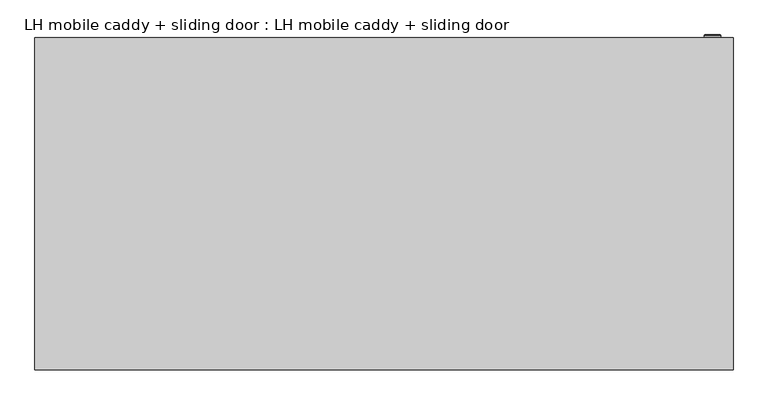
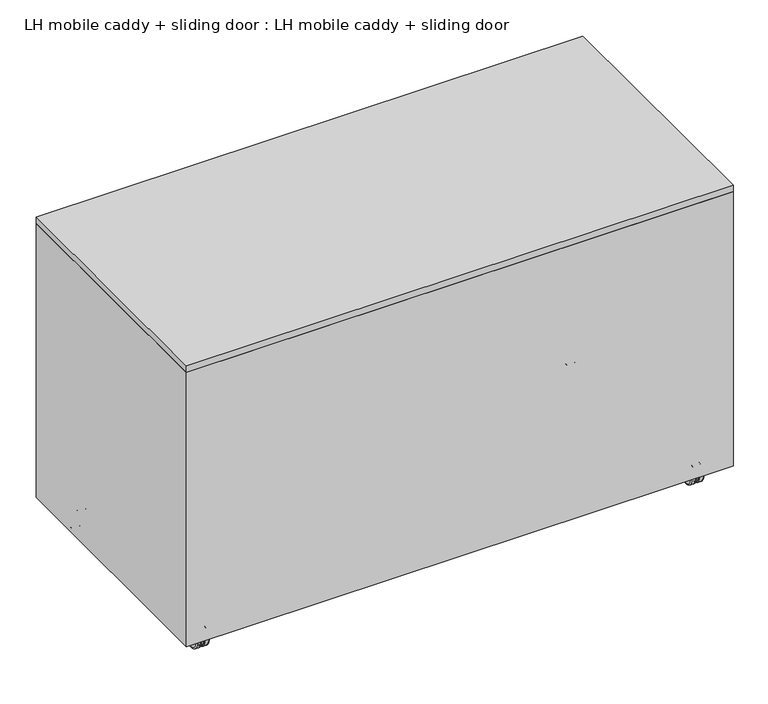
"""IFC4 building model written with IfcOpenShell, lengths in millimetres: furniture geometry, LH mobile caddy + sliding door : LH mobile caddy + sliding door."""

from ifc_helpers import new_model, si_unit, point, frame, frame_2d, origin, place, context, project, spatial, polyline, circle_curve, ellipse_curve, trimmed, segment, composite_curve, outline, extrude, faceted_brep, source, transform, mapped, element, save
from ifc_brep_helpers import plane_surface, cylinder_surface, revolved_surface, advanced_brep


def lh_mobile_caddy_sliding_door_lh_mobile_caddy_sliding_door_7feb8386(model_context):
    return source(origin(), model_context, "Body", "SolidModel", [
        advanced_brep(
        [(482.4473365, 254.0, 479.5526635), (505.5526635, 254.0, 479.5526635), (495.0273848, 254.0, 485.6206655), (493.0273848, 254.0, 485.6206655), (493.0273848, 254.0, 473.6206655), (495.0273848, 254.0, 473.6206655), (481.4473365, 250.0, 479.5526635), (506.5526635, 250.0, 479.5526635), (495.0273848, 250.0, 485.6206655), (495.0273848, 250.0, 473.6206655), (493.0273848, 250.0, 473.6206655), (493.0273848, 250.0, 485.6206655), (481.4473365, 253.0, 479.5526635), (506.5526635, 253.0, 479.5526635)],
        [
            (0, 1, circle_curve(frame((494.0, 254.0, 479.5526635), z_axis=(0.0, 1.0, 0.0), x_axis=(-1.0, 0.0, 0.0)), 11.5526635)),
            (1, 0, circle_curve(frame((494.0, 254.0, 479.5526635), z_axis=(0.0, 1.0, 0.0), x_axis=(1.0, 0.0, 0.0)), 11.5526635)),
            (2, 3),
            (3, 4),
            (4, 5),
            (5, 2),
            (6, 7, circle_curve(frame((494.0, 250.0, 479.5526635), z_axis=(0.0, -1.0, 0.0), x_axis=(1.0, 0.0, 0.0)), 12.5526635)),
            (7, 6, circle_curve(frame((494.0, 250.0, 479.5526635), z_axis=(0.0, -1.0, 0.0), x_axis=(1.0, 0.0, 0.0)), 12.5526635)),
            (8, 9),
            (9, 10),
            (10, 11),
            (11, 8),
            (6, 12),
            (12, 13, circle_curve(frame((494.0, 253.0, 479.5526635), z_axis=(0.0, -1.0, 0.0), x_axis=(1.0, 0.0, 0.0)), 12.5526635)),
            (13, 7),
            (13, 12, circle_curve(frame((494.0, 253.0, 479.5526635), z_axis=(0.0, -1.0, 0.0), x_axis=(1.0, 0.0, 0.0)), 12.5526635)),
            (5, 9),
            (8, 2),
            (4, 10),
            (3, 11),
            (1, 13, circle_curve(frame((505.5526635, 253.0, 479.5526635), z_axis=(0.0, 0.0, -1.0), x_axis=(1.0, 0.0, 0.0)), 1.0)),
            (12, 0, circle_curve(frame((482.4473365, 253.0, 479.5526635), z_axis=(0.0, 0.0, -1.0), x_axis=(-1.0, 0.0, 0.0)), 1.0)),
        ],
        [
            plane_surface(frame((506.5526635, 254.0, 479.5526635), z_axis=(0.0, 1.0, 0.0), x_axis=(0.0, 0.0, 1.0))),
            plane_surface(frame((506.5526635, 250.0, 479.5526635), z_axis=(0.0, -1.0, 0.0), x_axis=(0.0, 0.0, -1.0))),
            cylinder_surface(frame((494.0, 250.0, 479.5526635), z_axis=(0.0, 1.0, 0.0), x_axis=(1.0, 0.0, 0.0)), 12.5526635),
            plane_surface(frame((495.0273848, 254.0, 485.6206655), z_axis=(-1.0, 0.0, 0.0), x_axis=(0.0, -1.0, 0.0))),
            plane_surface(frame((495.0273848, 254.0, 473.6206655), z_axis=(0.0, 0.0, 1.0), x_axis=(0.0, -1.0, 0.0))),
            plane_surface(frame((493.0273848, 254.0, 473.6206655), z_axis=(1.0, 0.0, 0.0), x_axis=(0.0, -1.0, 0.0))),
            plane_surface(frame((493.0273848, 254.0, 485.6206655), z_axis=(0.0, 0.0, -1.0), x_axis=(0.0, -1.0, 0.0))),
            revolved_surface(trimmed(ellipse_curve(frame((505.5526635, 253.0, 479.5526635), z_axis=(0.0, 0.0, -1.0), x_axis=(1.0, 0.0, 0.0)), 1.0, 1.0), [point((505.5526635, 254.0, 479.5526635))], [point((506.5526635, 253.0, 479.5526635))], True, "CARTESIAN"), (494.0, 254.0, 479.5526635), (0.0, -1.0, 0.0)),
            revolved_surface(trimmed(ellipse_curve(frame((482.4473365, 253.0, 479.5526635), z_axis=(0.0, 0.0, 1.0), x_axis=(-1.0, 0.0, 0.0)), 1.0, 1.0), [point((482.4473365, 254.0, 479.5526635))], [point((481.4473365, 253.0, 479.5526635))], True, "CARTESIAN"), (494.0, 254.0, 479.5526635), (0.0, -1.0, 0.0)),
        ],
        [
            (0, [[1, 2], [3, 4, 5, 6]]),
            (1, [[7, 8], [9, 10, 11, 12]]),
            (2, [[13, 14, 15, -7]]),
            (2, [[-15, 16, -13, -8]]),
            (3, [[17, -9, 18, -6]]),
            (4, [[19, -10, -17, -5]]),
            (5, [[20, -11, -19, -4]]),
            (6, [[-18, -12, -20, -3]]),
            (7, [[-2, 21, -14, 22]]),
            (8, [[-16, -21, -1, -22]]),
        ],
    ),
        extrude(outline(polyline([(485.0, 190.0), (465.0, 190.0), (465.0, 210.0), (485.0, 210.0), (485.0, 190.0)])), frame((0.0, 0.0, 43.9728703), z_axis=(0.0, 0.0, 1.0), x_axis=(1.0, 0.0, 0.0)), (0.0, 0.0, 1.0), 1.0),
        extrude(outline(composite_curve([segment(trimmed(circle_curve(frame_2d((475.0, 200.0)), 5.0), [point((470.0, 200.0))], [point((480.0, 200.0))], False, "CARTESIAN"), True, "CONTINUOUS"), segment(trimmed(circle_curve(frame_2d((475.0, 200.0)), 5.0), [point((480.0, 200.0))], [point((470.0, 200.0))], False, "CARTESIAN"), True, "CONTINUOUS")], self_intersect=False)), frame((0.0, 0.0, 33.9910172), z_axis=(0.0, 0.0, 1.0), x_axis=(1.0, 0.0, 0.0)), (0.0, 0.0, 1.0), 9.9818531),
        advanced_brep(
        [(479.1141274, 200.0, -0.0314992), (485.4241314, 200.0, -0.0314992), (485.4241314, 200.0, 38.0135337), (479.1141274, 200.0, 38.0135337), (477.5141274, 200.0, 2.5273707), (477.5141274, 200.0, 1.5685008), (477.5141274, 200.0, 36.4135337), (477.5141274, 200.0, 35.4546638), (487.5141274, 200.0, 2.0584968), (487.5141274, 200.0, 18.9910172), (487.5141274, 200.0, 35.9235376), (472.4858726, 200.0, 2.5273707), (472.4858726, 200.0, 35.4546638), (472.4858726, 200.0, 1.6116925), (472.4858726, 200.0, 36.370342), (470.8426809, 200.0, -0.0314992), (470.8426809, 200.0, 38.0135337), (464.4746043, 200.0, -0.0314992), (464.4746043, 200.0, 38.0135337), (462.4858726, 200.0, 1.9572325), (462.4858726, 200.0, 36.0248019), (462.4858726, 200.0, 18.9910172)],
        [
            (0, 1),
            (1, 2, circle_curve(frame((485.4241314, 200.0, 18.9910172), z_axis=(-1.0, 0.0, 0.0), x_axis=(0.0, 0.0, 1.0)), 19.0225164)),
            (2, 3),
            (3, 0, circle_curve(frame((479.1141274, 200.0, 18.9910172), z_axis=(1.0, 0.0, 0.0), x_axis=(0.0, 0.0, 1.0)), 19.0225164)),
            (2, 1, circle_curve(frame((485.4241314, 200.0, 18.9910172), z_axis=(-1.0, 0.0, 0.0), x_axis=(0.0, 0.0, 1.0)), 19.0225164)),
            (0, 3, circle_curve(frame((479.1141274, 200.0, 18.9910172), z_axis=(1.0, 0.0, 0.0), x_axis=(0.0, 0.0, 1.0)), 19.0225164)),
            (4, 5),
            (5, 6, circle_curve(frame((477.5141274, 200.0, 18.9910172), z_axis=(-1.0, 0.0, 0.0), x_axis=(0.0, 0.0, 1.0)), 17.4225164)),
            (6, 7),
            (7, 4, circle_curve(frame((477.5141274, 200.0, 18.9910172), z_axis=(1.0, 0.0, 0.0), x_axis=(0.0, 0.0, 1.0)), 16.4636466)),
            (6, 5, circle_curve(frame((477.5141274, 200.0, 18.9910172), z_axis=(-1.0, 0.0, 0.0), x_axis=(0.0, 0.0, 1.0)), 17.4225164)),
            (4, 7, circle_curve(frame((477.5141274, 200.0, 18.9910172), z_axis=(1.0, 0.0, 0.0), x_axis=(0.0, 0.0, 1.0)), 16.4636466)),
            (8, 9),
            (9, 10),
            (10, 8, circle_curve(frame((487.5141274, 200.0, 18.9910172), z_axis=(1.0, 0.0, 0.0), x_axis=(0.0, 0.0, 1.0)), 16.9325204)),
            (8, 10, circle_curve(frame((487.5141274, 200.0, 18.9910172), z_axis=(1.0, 0.0, 0.0), x_axis=(0.0, 0.0, 1.0)), 16.9325204)),
            (1, 8, circle_curve(frame((485.4241314, 200.0, 2.0584968), z_axis=(0.0, -1.0, 0.0), x_axis=(1.0, 0.0, 0.0)), 2.0899961)),
            (10, 2, circle_curve(frame((485.4241314, 200.0, 35.9235376), z_axis=(0.0, -1.0, 0.0), x_axis=(1.0, 0.0, 0.0)), 2.0899961)),
            (5, 0, circle_curve(frame((479.1141274, 200.0, 1.5685008), z_axis=(0.0, -1.0, 0.0), x_axis=(1.0, 0.0, 0.0)), 1.6)),
            (3, 6, circle_curve(frame((479.1141274, 200.0, 36.4135337), z_axis=(0.0, -1.0, 0.0), x_axis=(1.0, 0.0, 0.0)), 1.6)),
            (11, 4),
            (7, 12),
            (12, 11, circle_curve(frame((472.4858726, 200.0, 18.9910172), z_axis=(1.0, 0.0, 0.0), x_axis=(0.0, 0.0, 1.0)), 16.4636466)),
            (11, 12, circle_curve(frame((472.4858726, 200.0, 18.9910172), z_axis=(1.0, 0.0, 0.0), x_axis=(0.0, 0.0, 1.0)), 16.4636466)),
            (13, 11),
            (12, 14),
            (14, 13, circle_curve(frame((472.4858726, 200.0, 18.9910172), z_axis=(1.0, 0.0, 0.0), x_axis=(0.0, 0.0, 1.0)), 17.3793248)),
            (13, 14, circle_curve(frame((472.4858726, 200.0, 18.9910172), z_axis=(1.0, 0.0, 0.0), x_axis=(0.0, 0.0, 1.0)), 17.3793248)),
            (15, 13, circle_curve(frame((470.8426809, 200.0, 1.6116925), z_axis=(0.0, -1.0, 0.0), x_axis=(1.0, 0.0, 0.0)), 1.6431917)),
            (14, 16, circle_curve(frame((470.8426809, 200.0, 36.370342), z_axis=(0.0, -1.0, 0.0), x_axis=(1.0, 0.0, 0.0)), 1.6431917)),
            (16, 15, circle_curve(frame((470.8426809, 200.0, 18.9910172), z_axis=(1.0, 0.0, 0.0), x_axis=(0.0, 0.0, 1.0)), 19.0225164)),
            (15, 16, circle_curve(frame((470.8426809, 200.0, 18.9910172), z_axis=(1.0, 0.0, 0.0), x_axis=(0.0, 0.0, 1.0)), 19.0225164)),
            (17, 15),
            (16, 18),
            (18, 17, circle_curve(frame((464.4746043, 200.0, 18.9910172), z_axis=(1.0, 0.0, 0.0), x_axis=(0.0, 0.0, 1.0)), 19.0225164)),
            (17, 18, circle_curve(frame((464.4746043, 200.0, 18.9910172), z_axis=(1.0, 0.0, 0.0), x_axis=(0.0, 0.0, 1.0)), 19.0225164)),
            (19, 17, circle_curve(frame((464.4746043, 200.0, 1.9572325), z_axis=(0.0, -1.0, 0.0), x_axis=(1.0, 0.0, 0.0)), 1.9887317)),
            (18, 20, circle_curve(frame((464.4746043, 200.0, 36.0248019), z_axis=(0.0, -1.0, 0.0), x_axis=(1.0, 0.0, 0.0)), 1.9887317)),
            (20, 19, circle_curve(frame((462.4858726, 200.0, 18.9910172), z_axis=(1.0, 0.0, 0.0), x_axis=(0.0, 0.0, 1.0)), 17.0337847)),
            (19, 20, circle_curve(frame((462.4858726, 200.0, 18.9910172), z_axis=(1.0, 0.0, 0.0), x_axis=(0.0, 0.0, 1.0)), 17.0337847)),
            (21, 19),
            (20, 21),
        ],
        [
            cylinder_surface(frame((433.3216538, 200.0, 18.9910172), z_axis=(-1.0, 0.0, 0.0), x_axis=(0.0, 0.0, 1.0)), 19.0225164),
            plane_surface(frame((477.5141274, 200.0, 18.9910172), z_axis=(-1.0, 0.0, 0.0), x_axis=(0.0, 0.0, 1.0))),
            plane_surface(frame((487.5141274, 200.0, 18.9910172), z_axis=(1.0, 0.0, 0.0), x_axis=(0.0, 0.0, 1.0))),
            revolved_surface(trimmed(ellipse_curve(frame((485.4241314, 200.0, 35.9235376), z_axis=(0.0, -1.0, 0.0), x_axis=(1.0, 0.0, 0.0)), 2.0899961, 2.0899961), [point((487.5141274, 200.0, 35.9235376))], [point((485.4241314, 200.0, 38.0135337))], True, "CARTESIAN"), (433.3216538, 200.0, 18.9910172), (-1.0, 0.0, 0.0)),
            revolved_surface(trimmed(ellipse_curve(frame((479.1141274, 200.0, 36.4135337), z_axis=(0.0, -1.0, 0.0), x_axis=(1.0, 0.0, 0.0)), 1.6, 1.6), [point((479.1141274, 200.0, 38.0135337))], [point((477.5141274, 200.0, 36.4135337))], True, "CARTESIAN"), (433.3216538, 200.0, 18.9910172), (-1.0, 0.0, 0.0)),
            cylinder_surface(frame((433.3216538, 200.0, 18.9910172), z_axis=(-1.0, 0.0, 0.0), x_axis=(0.0, 0.0, 1.0)), 16.4636466),
            plane_surface(frame((472.4858726, 200.0, 18.9910172), z_axis=(1.0, 0.0, 0.0), x_axis=(0.0, 0.0, 1.0))),
            revolved_surface(trimmed(ellipse_curve(frame((470.8426809, 200.0, 36.370342), z_axis=(0.0, -1.0, 0.0), x_axis=(1.0, 0.0, 0.0)), 1.6431917, 1.6431917), [point((472.4858726, 200.0, 36.370342))], [point((470.8426809, 200.0, 38.0135337))], True, "CARTESIAN"), (433.3216538, 200.0, 18.9910172), (-1.0, 0.0, 0.0)),
            revolved_surface(trimmed(ellipse_curve(frame((464.4746043, 200.0, 36.0248019), z_axis=(0.0, -1.0, 0.0), x_axis=(1.0, 0.0, 0.0)), 1.9887317, 1.9887317), [point((464.4746043, 200.0, 38.0135337))], [point((462.4858726, 200.0, 36.0248019))], True, "CARTESIAN"), (433.3216538, 200.0, 18.9910172), (-1.0, 0.0, 0.0)),
            plane_surface(frame((462.4858726, 200.0, 18.9910172), z_axis=(-1.0, 0.0, 0.0), x_axis=(0.0, 0.0, 1.0))),
        ],
        [
            (0, [[1, 2, 3, 4]]),
            (0, [[-3, 5, -1, 6]]),
            (1, [[7, 8, 9, 10]]),
            (1, [[-9, 11, -7, 12]]),
            (2, [[13, 14, 15]]),
            (2, [[-14, -13, 16]]),
            (3, [[17, -15, 18, -2]]),
            (3, [[-18, -16, -17, -5]]),
            (4, [[19, -4, 20, -8]]),
            (4, [[-20, -6, -19, -11]]),
            (5, [[21, -10, 22, 23]]),
            (5, [[-22, -12, -21, 24]]),
            (6, [[25, -23, 26, 27]]),
            (6, [[-26, -24, -25, 28]]),
            (7, [[29, -27, 30, 31]]),
            (7, [[-30, -28, -29, 32]]),
            (0, [[33, -31, 34, 35]]),
            (0, [[-34, -32, -33, 36]]),
            (8, [[37, -35, 38, 39]]),
            (8, [[-38, -36, -37, 40]]),
            (9, [[41, -39, 42]]),
            (9, [[-42, -40, -41]]),
        ],
    ),
        extrude(outline(polyline([(-465.0, 190.0), (-485.0, 190.0), (-485.0, 210.0), (-465.0, 210.0), (-465.0, 190.0)])), frame((0.0, 0.0, 43.9728703), z_axis=(0.0, 0.0, 1.0), x_axis=(1.0, 0.0, 0.0)), (0.0, 0.0, 1.0), 1.0),
        extrude(outline(composite_curve([segment(trimmed(circle_curve(frame_2d((-475.0, 200.0)), 5.0), [point((-480.0, 200.0))], [point((-470.0, 200.0))], False, "CARTESIAN"), True, "CONTINUOUS"), segment(trimmed(circle_curve(frame_2d((-475.0, 200.0)), 5.0), [point((-470.0, 200.0))], [point((-480.0, 200.0))], False, "CARTESIAN"), True, "CONTINUOUS")], self_intersect=False)), frame((0.0, 0.0, 33.9910172), z_axis=(0.0, 0.0, 1.0), x_axis=(1.0, 0.0, 0.0)), (0.0, 0.0, 1.0), 9.9818531),
        advanced_brep(
        [(-470.8858726, 200.0, -0.0314992), (-464.5758686, 200.0, -0.0314992), (-464.5758686, 200.0, 38.0135337), (-470.8858726, 200.0, 38.0135337), (-472.4858726, 200.0, 2.5273707), (-472.4858726, 200.0, 1.5685008), (-472.4858726, 200.0, 36.4135337), (-472.4858726, 200.0, 35.4546638), (-462.4858726, 200.0, 2.0584968), (-462.4858726, 200.0, 18.9910172), (-462.4858726, 200.0, 35.9235376), (-477.5141274, 200.0, 2.5273707), (-477.5141274, 200.0, 35.4546638), (-477.5141274, 200.0, 1.6116925), (-477.5141274, 200.0, 36.370342), (-479.1573191, 200.0, -0.0314992), (-479.1573191, 200.0, 38.0135337), (-485.5253957, 200.0, -0.0314992), (-485.5253957, 200.0, 38.0135337), (-487.5141274, 200.0, 1.9572325), (-487.5141274, 200.0, 36.0248019), (-487.5141274, 200.0, 18.9910172)],
        [
            (0, 1),
            (1, 2, circle_curve(frame((-464.5758686, 200.0, 18.9910172), z_axis=(-1.0, 0.0, 0.0), x_axis=(0.0, 0.0, 1.0)), 19.0225164)),
            (2, 3),
            (3, 0, circle_curve(frame((-470.8858726, 200.0, 18.9910172), z_axis=(1.0, 0.0, 0.0), x_axis=(0.0, 0.0, 1.0)), 19.0225164)),
            (2, 1, circle_curve(frame((-464.5758686, 200.0, 18.9910172), z_axis=(-1.0, 0.0, 0.0), x_axis=(0.0, 0.0, 1.0)), 19.0225164)),
            (0, 3, circle_curve(frame((-470.8858726, 200.0, 18.9910172), z_axis=(1.0, 0.0, 0.0), x_axis=(0.0, 0.0, 1.0)), 19.0225164)),
            (4, 5),
            (5, 6, circle_curve(frame((-472.4858726, 200.0, 18.9910172), z_axis=(-1.0, 0.0, 0.0), x_axis=(0.0, 0.0, 1.0)), 17.4225164)),
            (6, 7),
            (7, 4, circle_curve(frame((-472.4858726, 200.0, 18.9910172), z_axis=(1.0, 0.0, 0.0), x_axis=(0.0, 0.0, 1.0)), 16.4636466)),
            (6, 5, circle_curve(frame((-472.4858726, 200.0, 18.9910172), z_axis=(-1.0, 0.0, 0.0), x_axis=(0.0, 0.0, 1.0)), 17.4225164)),
            (4, 7, circle_curve(frame((-472.4858726, 200.0, 18.9910172), z_axis=(1.0, 0.0, 0.0), x_axis=(0.0, 0.0, 1.0)), 16.4636466)),
            (8, 9),
            (9, 10),
            (10, 8, circle_curve(frame((-462.4858726, 200.0, 18.9910172), z_axis=(1.0, 0.0, 0.0), x_axis=(0.0, 0.0, 1.0)), 16.9325204)),
            (8, 10, circle_curve(frame((-462.4858726, 200.0, 18.9910172), z_axis=(1.0, 0.0, 0.0), x_axis=(0.0, 0.0, 1.0)), 16.9325204)),
            (1, 8, circle_curve(frame((-464.5758686, 200.0, 2.0584968), z_axis=(0.0, -1.0, 0.0), x_axis=(1.0, 0.0, 0.0)), 2.0899961)),
            (10, 2, circle_curve(frame((-464.5758686, 200.0, 35.9235376), z_axis=(0.0, -1.0, 0.0), x_axis=(1.0, 0.0, 0.0)), 2.0899961)),
            (5, 0, circle_curve(frame((-470.8858726, 200.0, 1.5685008), z_axis=(0.0, -1.0, 0.0), x_axis=(1.0, 0.0, 0.0)), 1.6)),
            (3, 6, circle_curve(frame((-470.8858726, 200.0, 36.4135337), z_axis=(0.0, -1.0, 0.0), x_axis=(1.0, 0.0, 0.0)), 1.6)),
            (11, 4),
            (7, 12),
            (12, 11, circle_curve(frame((-477.5141274, 200.0, 18.9910172), z_axis=(1.0, 0.0, 0.0), x_axis=(0.0, 0.0, 1.0)), 16.4636466)),
            (11, 12, circle_curve(frame((-477.5141274, 200.0, 18.9910172), z_axis=(1.0, 0.0, 0.0), x_axis=(0.0, 0.0, 1.0)), 16.4636466)),
            (13, 11),
            (12, 14),
            (14, 13, circle_curve(frame((-477.5141274, 200.0, 18.9910172), z_axis=(1.0, 0.0, 0.0), x_axis=(0.0, 0.0, 1.0)), 17.3793248)),
            (13, 14, circle_curve(frame((-477.5141274, 200.0, 18.9910172), z_axis=(1.0, 0.0, 0.0), x_axis=(0.0, 0.0, 1.0)), 17.3793248)),
            (15, 13, circle_curve(frame((-479.1573191, 200.0, 1.6116925), z_axis=(0.0, -1.0, 0.0), x_axis=(1.0, 0.0, 0.0)), 1.6431917)),
            (14, 16, circle_curve(frame((-479.1573191, 200.0, 36.370342), z_axis=(0.0, -1.0, 0.0), x_axis=(1.0, 0.0, 0.0)), 1.6431917)),
            (16, 15, circle_curve(frame((-479.1573191, 200.0, 18.9910172), z_axis=(1.0, 0.0, 0.0), x_axis=(0.0, 0.0, 1.0)), 19.0225164)),
            (15, 16, circle_curve(frame((-479.1573191, 200.0, 18.9910172), z_axis=(1.0, 0.0, 0.0), x_axis=(0.0, 0.0, 1.0)), 19.0225164)),
            (17, 15),
            (16, 18),
            (18, 17, circle_curve(frame((-485.5253957, 200.0, 18.9910172), z_axis=(1.0, 0.0, 0.0), x_axis=(0.0, 0.0, 1.0)), 19.0225164)),
            (17, 18, circle_curve(frame((-485.5253957, 200.0, 18.9910172), z_axis=(1.0, 0.0, 0.0), x_axis=(0.0, 0.0, 1.0)), 19.0225164)),
            (19, 17, circle_curve(frame((-485.5253957, 200.0, 1.9572325), z_axis=(0.0, -1.0, 0.0), x_axis=(1.0, 0.0, 0.0)), 1.9887317)),
            (18, 20, circle_curve(frame((-485.5253957, 200.0, 36.0248019), z_axis=(0.0, -1.0, 0.0), x_axis=(1.0, 0.0, 0.0)), 1.9887317)),
            (20, 19, circle_curve(frame((-487.5141274, 200.0, 18.9910172), z_axis=(1.0, 0.0, 0.0), x_axis=(0.0, 0.0, 1.0)), 17.0337847)),
            (19, 20, circle_curve(frame((-487.5141274, 200.0, 18.9910172), z_axis=(1.0, 0.0, 0.0), x_axis=(0.0, 0.0, 1.0)), 17.0337847)),
            (21, 19),
            (20, 21),
        ],
        [
            cylinder_surface(frame((-516.6783462, 200.0, 18.9910172), z_axis=(-1.0, 0.0, 0.0), x_axis=(0.0, 0.0, 1.0)), 19.0225164),
            plane_surface(frame((-472.4858726, 200.0, 18.9910172), z_axis=(-1.0, 0.0, 0.0), x_axis=(0.0, 0.0, 1.0))),
            plane_surface(frame((-462.4858726, 200.0, 18.9910172), z_axis=(1.0, 0.0, 0.0), x_axis=(0.0, 0.0, 1.0))),
            revolved_surface(trimmed(ellipse_curve(frame((-464.5758686, 200.0, 35.9235376), z_axis=(0.0, -1.0, 0.0), x_axis=(1.0, 0.0, 0.0)), 2.0899961, 2.0899961), [point((-462.4858726, 200.0, 35.9235376))], [point((-464.5758686, 200.0, 38.0135337))], True, "CARTESIAN"), (-516.6783462, 200.0, 18.9910172), (-1.0, 0.0, 0.0)),
            revolved_surface(trimmed(ellipse_curve(frame((-470.8858726, 200.0, 36.4135337), z_axis=(0.0, -1.0, 0.0), x_axis=(1.0, 0.0, 0.0)), 1.6, 1.6), [point((-470.8858726, 200.0, 38.0135337))], [point((-472.4858726, 200.0, 36.4135337))], True, "CARTESIAN"), (-516.6783462, 200.0, 18.9910172), (-1.0, 0.0, 0.0)),
            cylinder_surface(frame((-516.6783462, 200.0, 18.9910172), z_axis=(-1.0, 0.0, 0.0), x_axis=(0.0, 0.0, 1.0)), 16.4636466),
            plane_surface(frame((-477.5141274, 200.0, 18.9910172), z_axis=(1.0, 0.0, 0.0), x_axis=(0.0, 0.0, 1.0))),
            revolved_surface(trimmed(ellipse_curve(frame((-479.1573191, 200.0, 36.370342), z_axis=(0.0, -1.0, 0.0), x_axis=(1.0, 0.0, 0.0)), 1.6431917, 1.6431917), [point((-477.5141274, 200.0, 36.370342))], [point((-479.1573191, 200.0, 38.0135337))], True, "CARTESIAN"), (-516.6783462, 200.0, 18.9910172), (-1.0, 0.0, 0.0)),
            revolved_surface(trimmed(ellipse_curve(frame((-485.5253957, 200.0, 36.0248019), z_axis=(0.0, -1.0, 0.0), x_axis=(1.0, 0.0, 0.0)), 1.9887317, 1.9887317), [point((-485.5253957, 200.0, 38.0135337))], [point((-487.5141274, 200.0, 36.0248019))], True, "CARTESIAN"), (-516.6783462, 200.0, 18.9910172), (-1.0, 0.0, 0.0)),
            plane_surface(frame((-487.5141274, 200.0, 18.9910172), z_axis=(-1.0, 0.0, 0.0), x_axis=(0.0, 0.0, 1.0))),
        ],
        [
            (0, [[1, 2, 3, 4]]),
            (0, [[-3, 5, -1, 6]]),
            (1, [[7, 8, 9, 10]]),
            (1, [[-9, 11, -7, 12]]),
            (2, [[13, 14, 15]]),
            (2, [[-14, -13, 16]]),
            (3, [[17, -15, 18, -2]]),
            (3, [[-18, -16, -17, -5]]),
            (4, [[19, -4, 20, -8]]),
            (4, [[-20, -6, -19, -11]]),
            (5, [[21, -10, 22, 23]]),
            (5, [[-22, -12, -21, 24]]),
            (6, [[25, -23, 26, 27]]),
            (6, [[-26, -24, -25, 28]]),
            (7, [[29, -27, 30, 31]]),
            (7, [[-30, -28, -29, 32]]),
            (0, [[33, -31, 34, 35]]),
            (0, [[-34, -32, -33, 36]]),
            (8, [[37, -35, 38, 39]]),
            (8, [[-38, -36, -37, 40]]),
            (9, [[41, -39, 42]]),
            (9, [[-42, -40, -41]]),
        ],
    ),
        extrude(outline(polyline([(-465.0, -210.0), (-485.0, -210.0), (-485.0, -190.0), (-465.0, -190.0), (-465.0, -210.0)])), frame((0.0, 0.0, 43.9728703), z_axis=(0.0, 0.0, 1.0), x_axis=(1.0, 0.0, 0.0)), (0.0, 0.0, 1.0), 1.0),
        extrude(outline(composite_curve([segment(trimmed(circle_curve(frame_2d((-475.0, -200.0)), 5.0), [point((-480.0, -200.0))], [point((-470.0, -200.0))], False, "CARTESIAN"), True, "CONTINUOUS"), segment(trimmed(circle_curve(frame_2d((-475.0, -200.0)), 5.0), [point((-470.0, -200.0))], [point((-480.0, -200.0))], False, "CARTESIAN"), True, "CONTINUOUS")], self_intersect=False)), frame((0.0, 0.0, 33.9910172), z_axis=(0.0, 0.0, 1.0), x_axis=(1.0, 0.0, 0.0)), (0.0, 0.0, 1.0), 9.9818531),
        advanced_brep(
        [(-470.8858726, -200.0, -0.0314992), (-464.5758686, -200.0, -0.0314992), (-464.5758686, -200.0, 38.0135337), (-470.8858726, -200.0, 38.0135337), (-472.4858726, -200.0, 2.5273707), (-472.4858726, -200.0, 1.5685008), (-472.4858726, -200.0, 36.4135337), (-472.4858726, -200.0, 35.4546638), (-462.4858726, -200.0, 2.0584968), (-462.4858726, -200.0, 18.9910172), (-462.4858726, -200.0, 35.9235376), (-477.5141274, -200.0, 2.5273707), (-477.5141274, -200.0, 35.4546638), (-477.5141274, -200.0, 1.6116925), (-477.5141274, -200.0, 36.370342), (-479.1573191, -200.0, -0.0314992), (-479.1573191, -200.0, 38.0135337), (-485.5253957, -200.0, -0.0314992), (-485.5253957, -200.0, 38.0135337), (-487.5141274, -200.0, 1.9572325), (-487.5141274, -200.0, 36.0248019), (-487.5141274, -200.0, 18.9910172)],
        [
            (0, 1),
            (1, 2, circle_curve(frame((-464.5758686, -200.0, 18.9910172), z_axis=(-1.0, 0.0, 0.0), x_axis=(0.0, 0.0, 1.0)), 19.0225164)),
            (2, 3),
            (3, 0, circle_curve(frame((-470.8858726, -200.0, 18.9910172), z_axis=(1.0, 0.0, 0.0), x_axis=(0.0, 0.0, 1.0)), 19.0225164)),
            (2, 1, circle_curve(frame((-464.5758686, -200.0, 18.9910172), z_axis=(-1.0, 0.0, 0.0), x_axis=(0.0, 0.0, 1.0)), 19.0225164)),
            (0, 3, circle_curve(frame((-470.8858726, -200.0, 18.9910172), z_axis=(1.0, 0.0, 0.0), x_axis=(0.0, 0.0, 1.0)), 19.0225164)),
            (4, 5),
            (5, 6, circle_curve(frame((-472.4858726, -200.0, 18.9910172), z_axis=(-1.0, 0.0, 0.0), x_axis=(0.0, 0.0, 1.0)), 17.4225164)),
            (6, 7),
            (7, 4, circle_curve(frame((-472.4858726, -200.0, 18.9910172), z_axis=(1.0, 0.0, 0.0), x_axis=(0.0, 0.0, 1.0)), 16.4636466)),
            (6, 5, circle_curve(frame((-472.4858726, -200.0, 18.9910172), z_axis=(-1.0, 0.0, 0.0), x_axis=(0.0, 0.0, 1.0)), 17.4225164)),
            (4, 7, circle_curve(frame((-472.4858726, -200.0, 18.9910172), z_axis=(1.0, 0.0, 0.0), x_axis=(0.0, 0.0, 1.0)), 16.4636466)),
            (8, 9),
            (9, 10),
            (10, 8, circle_curve(frame((-462.4858726, -200.0, 18.9910172), z_axis=(1.0, 0.0, 0.0), x_axis=(0.0, 0.0, 1.0)), 16.9325204)),
            (8, 10, circle_curve(frame((-462.4858726, -200.0, 18.9910172), z_axis=(1.0, 0.0, 0.0), x_axis=(0.0, 0.0, 1.0)), 16.9325204)),
            (1, 8, circle_curve(frame((-464.5758686, -200.0, 2.0584968), z_axis=(0.0, -1.0, 0.0), x_axis=(1.0, 0.0, 0.0)), 2.0899961)),
            (10, 2, circle_curve(frame((-464.5758686, -200.0, 35.9235376), z_axis=(0.0, -1.0, 0.0), x_axis=(1.0, 0.0, 0.0)), 2.0899961)),
            (5, 0, circle_curve(frame((-470.8858726, -200.0, 1.5685008), z_axis=(0.0, -1.0, 0.0), x_axis=(1.0, 0.0, 0.0)), 1.6)),
            (3, 6, circle_curve(frame((-470.8858726, -200.0, 36.4135337), z_axis=(0.0, -1.0, 0.0), x_axis=(1.0, 0.0, 0.0)), 1.6)),
            (11, 4),
            (7, 12),
            (12, 11, circle_curve(frame((-477.5141274, -200.0, 18.9910172), z_axis=(1.0, 0.0, 0.0), x_axis=(0.0, 0.0, 1.0)), 16.4636466)),
            (11, 12, circle_curve(frame((-477.5141274, -200.0, 18.9910172), z_axis=(1.0, 0.0, 0.0), x_axis=(0.0, 0.0, 1.0)), 16.4636466)),
            (13, 11),
            (12, 14),
            (14, 13, circle_curve(frame((-477.5141274, -200.0, 18.9910172), z_axis=(1.0, 0.0, 0.0), x_axis=(0.0, 0.0, 1.0)), 17.3793248)),
            (13, 14, circle_curve(frame((-477.5141274, -200.0, 18.9910172), z_axis=(1.0, 0.0, 0.0), x_axis=(0.0, 0.0, 1.0)), 17.3793248)),
            (15, 13, circle_curve(frame((-479.1573191, -200.0, 1.6116925), z_axis=(0.0, -1.0, 0.0), x_axis=(1.0, 0.0, 0.0)), 1.6431917)),
            (14, 16, circle_curve(frame((-479.1573191, -200.0, 36.370342), z_axis=(0.0, -1.0, 0.0), x_axis=(1.0, 0.0, 0.0)), 1.6431917)),
            (16, 15, circle_curve(frame((-479.1573191, -200.0, 18.9910172), z_axis=(1.0, 0.0, 0.0), x_axis=(0.0, 0.0, 1.0)), 19.0225164)),
            (15, 16, circle_curve(frame((-479.1573191, -200.0, 18.9910172), z_axis=(1.0, 0.0, 0.0), x_axis=(0.0, 0.0, 1.0)), 19.0225164)),
            (17, 15),
            (16, 18),
            (18, 17, circle_curve(frame((-485.5253957, -200.0, 18.9910172), z_axis=(1.0, 0.0, 0.0), x_axis=(0.0, 0.0, 1.0)), 19.0225164)),
            (17, 18, circle_curve(frame((-485.5253957, -200.0, 18.9910172), z_axis=(1.0, 0.0, 0.0), x_axis=(0.0, 0.0, 1.0)), 19.0225164)),
            (19, 17, circle_curve(frame((-485.5253957, -200.0, 1.9572325), z_axis=(0.0, -1.0, 0.0), x_axis=(1.0, 0.0, 0.0)), 1.9887317)),
            (18, 20, circle_curve(frame((-485.5253957, -200.0, 36.0248019), z_axis=(0.0, -1.0, 0.0), x_axis=(1.0, 0.0, 0.0)), 1.9887317)),
            (20, 19, circle_curve(frame((-487.5141274, -200.0, 18.9910172), z_axis=(1.0, 0.0, 0.0), x_axis=(0.0, 0.0, 1.0)), 17.0337847)),
            (19, 20, circle_curve(frame((-487.5141274, -200.0, 18.9910172), z_axis=(1.0, 0.0, 0.0), x_axis=(0.0, 0.0, 1.0)), 17.0337847)),
            (21, 19),
            (20, 21),
        ],
        [
            cylinder_surface(frame((-516.6783462, -200.0, 18.9910172), z_axis=(-1.0, 0.0, 0.0), x_axis=(0.0, 0.0, 1.0)), 19.0225164),
            plane_surface(frame((-472.4858726, -200.0, 18.9910172), z_axis=(-1.0, 0.0, 0.0), x_axis=(0.0, 0.0, 1.0))),
            plane_surface(frame((-462.4858726, -200.0, 18.9910172), z_axis=(1.0, 0.0, 0.0), x_axis=(0.0, 0.0, 1.0))),
            revolved_surface(trimmed(ellipse_curve(frame((-464.5758686, -200.0, 35.9235376), z_axis=(0.0, -1.0, 0.0), x_axis=(1.0, 0.0, 0.0)), 2.0899961, 2.0899961), [point((-462.4858726, -200.0, 35.9235376))], [point((-464.5758686, -200.0, 38.0135337))], True, "CARTESIAN"), (-516.6783462, -200.0, 18.9910172), (-1.0, 0.0, 0.0)),
            revolved_surface(trimmed(ellipse_curve(frame((-470.8858726, -200.0, 36.4135337), z_axis=(0.0, -1.0, 0.0), x_axis=(1.0, 0.0, 0.0)), 1.6, 1.6), [point((-470.8858726, -200.0, 38.0135337))], [point((-472.4858726, -200.0, 36.4135337))], True, "CARTESIAN"), (-516.6783462, -200.0, 18.9910172), (-1.0, 0.0, 0.0)),
            cylinder_surface(frame((-516.6783462, -200.0, 18.9910172), z_axis=(-1.0, 0.0, 0.0), x_axis=(0.0, 0.0, 1.0)), 16.4636466),
            plane_surface(frame((-477.5141274, -200.0, 18.9910172), z_axis=(1.0, 0.0, 0.0), x_axis=(0.0, 0.0, 1.0))),
            revolved_surface(trimmed(ellipse_curve(frame((-479.1573191, -200.0, 36.370342), z_axis=(0.0, -1.0, 0.0), x_axis=(1.0, 0.0, 0.0)), 1.6431917, 1.6431917), [point((-477.5141274, -200.0, 36.370342))], [point((-479.1573191, -200.0, 38.0135337))], True, "CARTESIAN"), (-516.6783462, -200.0, 18.9910172), (-1.0, 0.0, 0.0)),
            revolved_surface(trimmed(ellipse_curve(frame((-485.5253957, -200.0, 36.0248019), z_axis=(0.0, -1.0, 0.0), x_axis=(1.0, 0.0, 0.0)), 1.9887317, 1.9887317), [point((-485.5253957, -200.0, 38.0135337))], [point((-487.5141274, -200.0, 36.0248019))], True, "CARTESIAN"), (-516.6783462, -200.0, 18.9910172), (-1.0, 0.0, 0.0)),
            plane_surface(frame((-487.5141274, -200.0, 18.9910172), z_axis=(-1.0, 0.0, 0.0), x_axis=(0.0, 0.0, 1.0))),
        ],
        [
            (0, [[1, 2, 3, 4]]),
            (0, [[-3, 5, -1, 6]]),
            (1, [[7, 8, 9, 10]]),
            (1, [[-9, 11, -7, 12]]),
            (2, [[13, 14, 15]]),
            (2, [[-14, -13, 16]]),
            (3, [[17, -15, 18, -2]]),
            (3, [[-18, -16, -17, -5]]),
            (4, [[19, -4, 20, -8]]),
            (4, [[-20, -6, -19, -11]]),
            (5, [[21, -10, 22, 23]]),
            (5, [[-22, -12, -21, 24]]),
            (6, [[25, -23, 26, 27]]),
            (6, [[-26, -24, -25, 28]]),
            (7, [[29, -27, 30, 31]]),
            (7, [[-30, -28, -29, 32]]),
            (0, [[33, -31, 34, 35]]),
            (0, [[-34, -32, -33, 36]]),
            (8, [[37, -35, 38, 39]]),
            (8, [[-38, -36, -37, 40]]),
            (9, [[41, -39, 42]]),
            (9, [[-42, -40, -41]]),
        ],
    ),
        extrude(outline(polyline([(485.0, -210.0), (465.0, -210.0), (465.0, -190.0), (485.0, -190.0), (485.0, -210.0)])), frame((0.0, 0.0, 43.9728703), z_axis=(0.0, 0.0, 1.0), x_axis=(1.0, 0.0, 0.0)), (0.0, 0.0, 1.0), 1.0),
        extrude(outline(composite_curve([segment(trimmed(circle_curve(frame_2d((475.0, -200.0)), 5.0), [point((470.0, -200.0))], [point((480.0, -200.0))], False, "CARTESIAN"), True, "CONTINUOUS"), segment(trimmed(circle_curve(frame_2d((475.0, -200.0)), 5.0), [point((480.0, -200.0))], [point((470.0, -200.0))], False, "CARTESIAN"), True, "CONTINUOUS")], self_intersect=False)), frame((0.0, 0.0, 33.9910172), z_axis=(0.0, 0.0, 1.0), x_axis=(1.0, 0.0, 0.0)), (0.0, 0.0, 1.0), 9.9818531),
        advanced_brep(
        [(479.1141274, -200.0, -0.0314992), (485.4241314, -200.0, -0.0314992), (485.4241314, -200.0, 38.0135337), (479.1141274, -200.0, 38.0135337), (477.5141274, -200.0, 2.5273707), (477.5141274, -200.0, 1.5685008), (477.5141274, -200.0, 36.4135337), (477.5141274, -200.0, 35.4546638), (487.5141274, -200.0, 2.0584968), (487.5141274, -200.0, 18.9910172), (487.5141274, -200.0, 35.9235376), (472.4858726, -200.0, 2.5273707), (472.4858726, -200.0, 35.4546638), (472.4858726, -200.0, 1.6116925), (472.4858726, -200.0, 36.370342), (470.8426809, -200.0, -0.0314992), (470.8426809, -200.0, 38.0135337), (464.4746043, -200.0, -0.0314992), (464.4746043, -200.0, 38.0135337), (462.4858726, -200.0, 1.9572325), (462.4858726, -200.0, 36.0248019), (462.4858726, -200.0, 18.9910172)],
        [
            (0, 1),
            (1, 2, circle_curve(frame((485.4241314, -200.0, 18.9910172), z_axis=(-1.0, 0.0, 0.0), x_axis=(0.0, 0.0, 1.0)), 19.0225164)),
            (2, 3),
            (3, 0, circle_curve(frame((479.1141274, -200.0, 18.9910172), z_axis=(1.0, 0.0, 0.0), x_axis=(0.0, 0.0, 1.0)), 19.0225164)),
            (2, 1, circle_curve(frame((485.4241314, -200.0, 18.9910172), z_axis=(-1.0, 0.0, 0.0), x_axis=(0.0, 0.0, 1.0)), 19.0225164)),
            (0, 3, circle_curve(frame((479.1141274, -200.0, 18.9910172), z_axis=(1.0, 0.0, 0.0), x_axis=(0.0, 0.0, 1.0)), 19.0225164)),
            (4, 5),
            (5, 6, circle_curve(frame((477.5141274, -200.0, 18.9910172), z_axis=(-1.0, 0.0, 0.0), x_axis=(0.0, 0.0, 1.0)), 17.4225164)),
            (6, 7),
            (7, 4, circle_curve(frame((477.5141274, -200.0, 18.9910172), z_axis=(1.0, 0.0, 0.0), x_axis=(0.0, 0.0, 1.0)), 16.4636466)),
            (6, 5, circle_curve(frame((477.5141274, -200.0, 18.9910172), z_axis=(-1.0, 0.0, 0.0), x_axis=(0.0, 0.0, 1.0)), 17.4225164)),
            (4, 7, circle_curve(frame((477.5141274, -200.0, 18.9910172), z_axis=(1.0, 0.0, 0.0), x_axis=(0.0, 0.0, 1.0)), 16.4636466)),
            (8, 9),
            (9, 10),
            (10, 8, circle_curve(frame((487.5141274, -200.0, 18.9910172), z_axis=(1.0, 0.0, 0.0), x_axis=(0.0, 0.0, 1.0)), 16.9325204)),
            (8, 10, circle_curve(frame((487.5141274, -200.0, 18.9910172), z_axis=(1.0, 0.0, 0.0), x_axis=(0.0, 0.0, 1.0)), 16.9325204)),
            (1, 8, circle_curve(frame((485.4241314, -200.0, 2.0584968), z_axis=(0.0, -1.0, 0.0), x_axis=(1.0, 0.0, 0.0)), 2.0899961)),
            (10, 2, circle_curve(frame((485.4241314, -200.0, 35.9235376), z_axis=(0.0, -1.0, 0.0), x_axis=(1.0, 0.0, 0.0)), 2.0899961)),
            (5, 0, circle_curve(frame((479.1141274, -200.0, 1.5685008), z_axis=(0.0, -1.0, 0.0), x_axis=(1.0, 0.0, 0.0)), 1.6)),
            (3, 6, circle_curve(frame((479.1141274, -200.0, 36.4135337), z_axis=(0.0, -1.0, 0.0), x_axis=(1.0, 0.0, 0.0)), 1.6)),
            (11, 4),
            (7, 12),
            (12, 11, circle_curve(frame((472.4858726, -200.0, 18.9910172), z_axis=(1.0, 0.0, 0.0), x_axis=(0.0, 0.0, 1.0)), 16.4636466)),
            (11, 12, circle_curve(frame((472.4858726, -200.0, 18.9910172), z_axis=(1.0, 0.0, 0.0), x_axis=(0.0, 0.0, 1.0)), 16.4636466)),
            (13, 11),
            (12, 14),
            (14, 13, circle_curve(frame((472.4858726, -200.0, 18.9910172), z_axis=(1.0, 0.0, 0.0), x_axis=(0.0, 0.0, 1.0)), 17.3793248)),
            (13, 14, circle_curve(frame((472.4858726, -200.0, 18.9910172), z_axis=(1.0, 0.0, 0.0), x_axis=(0.0, 0.0, 1.0)), 17.3793248)),
            (15, 13, circle_curve(frame((470.8426809, -200.0, 1.6116925), z_axis=(0.0, -1.0, 0.0), x_axis=(1.0, 0.0, 0.0)), 1.6431917)),
            (14, 16, circle_curve(frame((470.8426809, -200.0, 36.370342), z_axis=(0.0, -1.0, 0.0), x_axis=(1.0, 0.0, 0.0)), 1.6431917)),
            (16, 15, circle_curve(frame((470.8426809, -200.0, 18.9910172), z_axis=(1.0, 0.0, 0.0), x_axis=(0.0, 0.0, 1.0)), 19.0225164)),
            (15, 16, circle_curve(frame((470.8426809, -200.0, 18.9910172), z_axis=(1.0, 0.0, 0.0), x_axis=(0.0, 0.0, 1.0)), 19.0225164)),
            (17, 15),
            (16, 18),
            (18, 17, circle_curve(frame((464.4746043, -200.0, 18.9910172), z_axis=(1.0, 0.0, 0.0), x_axis=(0.0, 0.0, 1.0)), 19.0225164)),
            (17, 18, circle_curve(frame((464.4746043, -200.0, 18.9910172), z_axis=(1.0, 0.0, 0.0), x_axis=(0.0, 0.0, 1.0)), 19.0225164)),
            (19, 17, circle_curve(frame((464.4746043, -200.0, 1.9572325), z_axis=(0.0, -1.0, 0.0), x_axis=(1.0, 0.0, 0.0)), 1.9887317)),
            (18, 20, circle_curve(frame((464.4746043, -200.0, 36.0248019), z_axis=(0.0, -1.0, 0.0), x_axis=(1.0, 0.0, 0.0)), 1.9887317)),
            (20, 19, circle_curve(frame((462.4858726, -200.0, 18.9910172), z_axis=(1.0, 0.0, 0.0), x_axis=(0.0, 0.0, 1.0)), 17.0337847)),
            (19, 20, circle_curve(frame((462.4858726, -200.0, 18.9910172), z_axis=(1.0, 0.0, 0.0), x_axis=(0.0, 0.0, 1.0)), 17.0337847)),
            (21, 19),
            (20, 21),
        ],
        [
            cylinder_surface(frame((433.3216538, -200.0, 18.9910172), z_axis=(-1.0, 0.0, 0.0), x_axis=(0.0, 0.0, 1.0)), 19.0225164),
            plane_surface(frame((477.5141274, -200.0, 18.9910172), z_axis=(-1.0, 0.0, 0.0), x_axis=(0.0, 0.0, 1.0))),
            plane_surface(frame((487.5141274, -200.0, 18.9910172), z_axis=(1.0, 0.0, 0.0), x_axis=(0.0, 0.0, 1.0))),
            revolved_surface(trimmed(ellipse_curve(frame((485.4241314, -200.0, 35.9235376), z_axis=(0.0, -1.0, 0.0), x_axis=(1.0, 0.0, 0.0)), 2.0899961, 2.0899961), [point((487.5141274, -200.0, 35.9235376))], [point((485.4241314, -200.0, 38.0135337))], True, "CARTESIAN"), (433.3216538, -200.0, 18.9910172), (-1.0, 0.0, 0.0)),
            revolved_surface(trimmed(ellipse_curve(frame((479.1141274, -200.0, 36.4135337), z_axis=(0.0, -1.0, 0.0), x_axis=(1.0, 0.0, 0.0)), 1.6, 1.6), [point((479.1141274, -200.0, 38.0135337))], [point((477.5141274, -200.0, 36.4135337))], True, "CARTESIAN"), (433.3216538, -200.0, 18.9910172), (-1.0, 0.0, 0.0)),
            cylinder_surface(frame((433.3216538, -200.0, 18.9910172), z_axis=(-1.0, 0.0, 0.0), x_axis=(0.0, 0.0, 1.0)), 16.4636466),
            plane_surface(frame((472.4858726, -200.0, 18.9910172), z_axis=(1.0, 0.0, 0.0), x_axis=(0.0, 0.0, 1.0))),
            revolved_surface(trimmed(ellipse_curve(frame((470.8426809, -200.0, 36.370342), z_axis=(0.0, -1.0, 0.0), x_axis=(1.0, 0.0, 0.0)), 1.6431917, 1.6431917), [point((472.4858726, -200.0, 36.370342))], [point((470.8426809, -200.0, 38.0135337))], True, "CARTESIAN"), (433.3216538, -200.0, 18.9910172), (-1.0, 0.0, 0.0)),
            revolved_surface(trimmed(ellipse_curve(frame((464.4746043, -200.0, 36.0248019), z_axis=(0.0, -1.0, 0.0), x_axis=(1.0, 0.0, 0.0)), 1.9887317, 1.9887317), [point((464.4746043, -200.0, 38.0135337))], [point((462.4858726, -200.0, 36.0248019))], True, "CARTESIAN"), (433.3216538, -200.0, 18.9910172), (-1.0, 0.0, 0.0)),
            plane_surface(frame((462.4858726, -200.0, 18.9910172), z_axis=(-1.0, 0.0, 0.0), x_axis=(0.0, 0.0, 1.0))),
        ],
        [
            (0, [[1, 2, 3, 4]]),
            (0, [[-3, 5, -1, 6]]),
            (1, [[7, 8, 9, 10]]),
            (1, [[-9, 11, -7, 12]]),
            (2, [[13, 14, 15]]),
            (2, [[-14, -13, 16]]),
            (3, [[17, -15, 18, -2]]),
            (3, [[-18, -16, -17, -5]]),
            (4, [[19, -4, 20, -8]]),
            (4, [[-20, -6, -19, -11]]),
            (5, [[21, -10, 22, 23]]),
            (5, [[-22, -12, -21, 24]]),
            (6, [[25, -23, 26, 27]]),
            (6, [[-26, -24, -25, 28]]),
            (7, [[29, -27, 30, 31]]),
            (7, [[-30, -28, -29, 32]]),
            (0, [[33, -31, 34, 35]]),
            (0, [[-34, -32, -33, 36]]),
            (8, [[37, -35, 38, 39]]),
            (8, [[-38, -36, -37, 40]]),
            (9, [[41, -39, 42]]),
            (9, [[-42, -40, -41]]),
        ],
    ),
        faceted_brep([(-525.0, 250.0, 602.0), (-525.0, -250.0, 602.0), (525.0, -250.0, 602.0), (525.0, 237.0, 602.0), (515.0, 237.0, 602.0), (515.0, 236.0, 602.0), (524.0, 236.0, 602.0), (524.0, -249.0, 602.0), (113.0, -249.0, 602.0), (113.0, -242.0, 602.0), (-472.0051316, -242.0, 602.0), (-472.0051316, 228.2249016, 602.0), (113.0, 228.2249016, 602.0), (113.0, 236.0, 602.0), (133.0, 236.0, 602.0), (133.0, 237.0, 602.0), (-512.0, 237.0, 602.0), (-512.0, 250.0, 602.0), (-525.0, -250.0, 44.9728703), (-525.0, 250.0, 44.9728703), (-512.0, 250.0, 58.9728703), (525.0, 250.0, 58.9728703), (525.0, 250.0, 44.9728703), (-512.0, 237.0, 58.9728703), (525.0, -250.0, 44.9728703), (133.0, 237.0, 58.9728703), (133.0, 236.0, 58.9728703), (113.0, 236.0, 58.9728703), (113.0, -249.0, 58.9728703), (524.0, -249.0, 58.9728703), (524.0, 236.0, 58.9728703), (515.0, 236.0, 58.9728703), (515.0, 237.0, 58.9728703), (525.0, 237.0, 58.9728703), (100.0, -242.0, 58.9728703), (100.0, 228.2249016, 58.9728703), (-472.0051316, 228.2249016, 58.9728703), (-472.0051316, -242.0, 58.9728703), (100.0, 237.0, 63.9114638), (100.0, 237.0, 596.9114638), (-472.0051316, 237.0, 596.9114638), (-472.0051316, 237.0, 63.9114638), (113.0, -242.0, 600.9519482), (113.0, 228.2249016, 600.9519482), (100.0, 228.2249016, 600.9519482), (100.0, -242.0, 600.9519482), (100.0, 228.2249016, 596.9114638), (100.0, 228.2249016, 63.9114638), (-472.0051316, 228.2249016, 63.9114638), (-472.0051316, 228.2249016, 596.9114638)], [[[0, 1, 2, 3, 4, 5, 6, 7, 8, 9, 10, 11, 12, 13, 14, 15, 16, 17]], [[18, 1, 0, 19]], [[17, 20, 21, 22, 19, 0]], [[16, 23, 20, 17]], [[24, 2, 1, 18]], [[20, 23, 25, 26, 27, 28, 29, 30, 31, 32, 33, 21]], [[34, 35, 36, 37]], [[22, 24, 18, 19]], [[21, 33, 3, 2, 24, 22]], [[29, 28, 8, 7]], [[7, 6, 30, 29]], [[33, 32, 4, 3]], [[5, 31, 30, 6]], [[4, 32, 31, 5]], [[27, 26, 14, 13]], [[15, 25, 23, 16], [38, 39, 40, 41]], [[14, 26, 25, 15]], [[42, 43, 44, 45]], [[45, 44, 46, 39, 38, 47, 35, 34]], [[8, 28, 27, 13, 12, 43, 42, 9]], [[9, 42, 45, 34, 37, 10]], [[37, 36, 48, 41, 40, 49, 11, 10]], [[11, 49, 46, 44, 43, 12]], [[48, 36, 35, 47]], [[41, 48, 47, 38]], [[39, 46, 49, 40]]]),
        extrude(outline(polyline([(515.0, 237.0), (133.0, 237.0), (123.0, 247.0), (123.0, 250.0), (525.0, 250.0), (525.0, 247.0), (515.0, 237.0)])), frame((0.0, 0.0, 503.9728703), z_axis=(0.0, 0.0, 1.0), x_axis=(1.0, 0.0, 0.0)), (0.0, 0.0, 1.0), 96.9790779),
        extrude(outline(polyline([(515.0, 237.0), (133.0, 237.0), (123.0, 247.0), (123.0, 250.0), (525.0, 250.0), (525.0, 247.0), (515.0, 237.0)])), frame((0.0, 0.0, 392.9728703), z_axis=(0.0, 0.0, 1.0), x_axis=(1.0, 0.0, 0.0)), (0.0, 0.0, 1.0), 110.0),
        extrude(outline(polyline([(515.0, 237.0), (133.0, 237.0), (123.0, 247.0), (123.0, 250.0), (525.0, 250.0), (525.0, 247.0), (515.0, 237.0)])), frame((0.0, 0.0, 58.9728703), z_axis=(0.0, 0.0, 1.0), x_axis=(1.0, 0.0, 0.0)), (0.0, 0.0, 1.0), 333.0),
        extrude(outline(polyline([(525.0, -250.0), (-525.0, -250.0), (-525.0, 250.0), (525.0, 250.0), (525.0, -250.0)])), frame((0.0, 0.0, 602.0), z_axis=(0.0, 0.0, 1.0), x_axis=(1.0, 0.0, 0.0)), (0.0, 0.0, 1.0), 13.0),
    ])


if __name__ == "__main__":
    model = new_model("IFC4")
    model_context = context("Model", 3, world=origin())
    ifc_project = project(units=[si_unit("LENGTHUNIT", "METRE", prefix="MILLI")], contexts=[model_context])
    site = spatial("IfcSite", under=ifc_project)
    building = spatial("IfcBuilding", under=site)
    placement = place(None, origin())
    lh_mobile_caddy_sliding_door_lh_mobile_caddy_sliding_door_shape = lh_mobile_caddy_sliding_door_lh_mobile_caddy_sliding_door_7feb8386(model_context)
    element("IfcFurniture", 1, ObjectType="LH mobile caddy + sliding door : LH mobile caddy + sliding door", at=placement, inside=building, context=model_context, shape_type="MappedRepresentation", body=[
        mapped(lh_mobile_caddy_sliding_door_lh_mobile_caddy_sliding_door_shape, transform((0.0, 0.0, 0.0), x_axis=(1.0, 0.0, 0.0), y_axis=(0.0, 1.0, 0.0), z_axis=(0.0, 0.0, 1.0))),
    ])
    save(model, "model.ifc")
